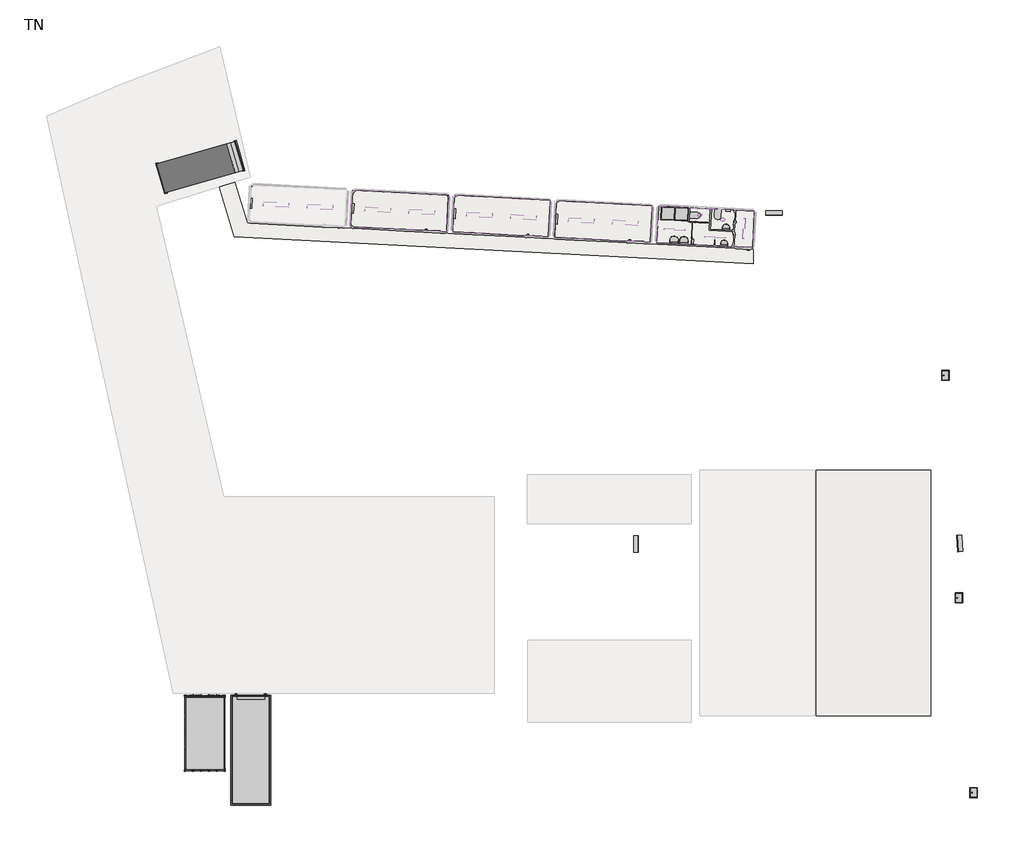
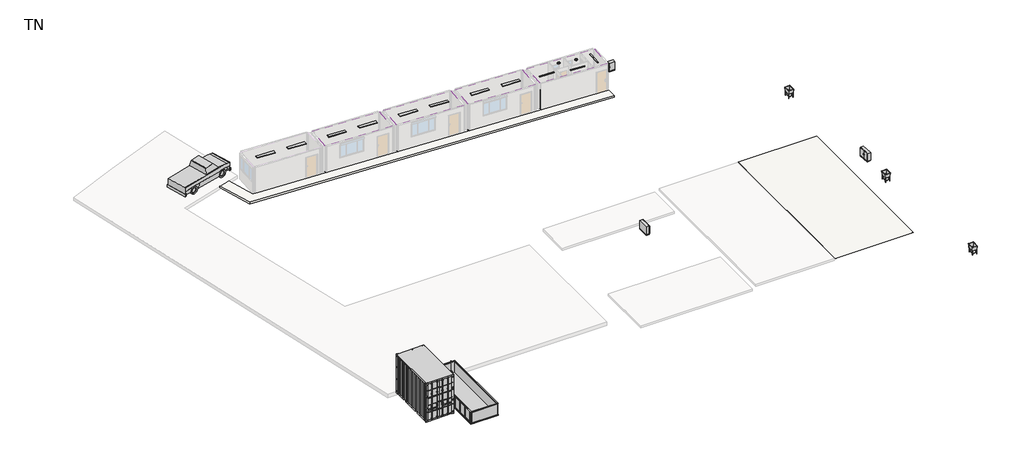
# One storey, part 2 of 2: 26 proxies, 13 light fixtures, 11 flow terminals, 6 slabs, 4 coverings, 1 geographic element.
"""IFC4 building model written with IfcOpenShell, lengths in millimetres."""

from ifc_helpers import new_model, si_unit, frame, origin, place, context, project, spatial, polyline, outline, extrude, faceted_brep, transform, mapped, element, save
from components import generic_models_80955716, proxy_1000_x_300_x_800_80c2998d, proxy_276mm_b661f6a0, proxy_276mm_ab83e847, proxy_600mm_4d415156, as_specified_in_01_52_13_0041e000, as_specified_in_01_52_13_7078bd20, m_outlet_single_single_59dc3149, m_outlet_single_single_3d2dbdc4, m_outlet_single_single_eedd577d, m_outlet_single_single_36af28d8, m_switch_single_single_bdcef15d, m_switch_single_single_5a78d6b5, pick_up_truck_a8637c89, flow_terminal_a5e4b3cb, flow_terminal_0f2f1a41, flow_terminal_440mm_dca6e4f9, flow_terminal_440mm_79f1e1fa, flow_terminal_550_995b3c18, evier_610_mmx455_mm_c8a5c5c3, geographic_element_20_yard_d3ad5d77, light_fixture_1255mm_x_70mm_1_x_36w_a4a57317, light_fixture_1550mm_x_265mm_2_x_58w_f319c43d, r122_1_x_36w_7453fb00

model = new_model("IFC4")

# Units and contexts
model_context = context("Model", 3, world=origin())
ifc_project = project(units=[si_unit("LENGTHUNIT", "METRE", prefix="MILLI")], contexts=[model_context])

# Site, building, storey
site = spatial("IfcSite", under=ifc_project)
building = spatial("IfcBuilding", under=site)
storey = spatial("IfcBuildingStorey", under=building, Name="TN", Elevation=0.0)

# Proxies
placement = place(None, origin())
generic_models_shape = generic_models_80955716(model_context)
element("IfcBuildingElementProxy", 1, Name="Partition_Zeppelin-Rental-GmbH : Partition_Zeppelin-Rental-GmbH", ObjectType="Partition_Zeppelin-Rental-GmbH : Partition_Zeppelin-Rental-GmbH", at=placement, inside=storey, context=model_context, shape_type="MappedRepresentation", body=[
    mapped(generic_models_shape, transform((-44607.4277084, 55996.3653864, 0.0), x_axis=(0.9986295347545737, -0.0523359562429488, 0.0), y_axis=(0.0523359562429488, 0.9986295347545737, 0.0), z_axis=(0.0, 0.0, 1.0))),
])
element("IfcBuildingElementProxy", 2, Name="Partition_Zeppelin-Rental-GmbH : Partition_Zeppelin-Rental-GmbH", ObjectType="Partition_Zeppelin-Rental-GmbH : Partition_Zeppelin-Rental-GmbH", at=placement, inside=storey, context=model_context, shape_type="MappedRepresentation", body=[
    mapped(generic_models_shape, transform((-44827.7120111, 55041.3353406, 0.0), x_axis=(0.9986295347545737, -0.0523359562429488, 0.0), y_axis=(0.0523359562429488, 0.9986295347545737, 0.0), z_axis=(0.0, 0.0, 1.0))),
])
proxy_1000_x_300_x_800_shape = proxy_1000_x_300_x_800_80c2998d(model_context)
element("IfcBuildingElementProxy", 3, Name="Armoire électrique : 1000 x 300 x 800", ObjectType="Armoire électrique : 1000 x 300 x 800", at=placement, inside=storey, context=model_context, shape_type="MappedRepresentation", body=[
    mapped(proxy_1000_x_300_x_800_shape, transform((-48371.6285023, 36338.5275457, 0.0), x_axis=(0.0, 1.0000000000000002, 0.0), y_axis=(-1.0000000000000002, 0.0, 0.0), z_axis=(0.0, 0.0, 1.0))),
])
element("IfcBuildingElementProxy", 4, Name="Armoire électrique : 1000 x 300 x 800", ObjectType="Armoire électrique : 1000 x 300 x 800", at=placement, inside=storey, context=model_context, shape_type="MappedRepresentation", body=[
    mapped(proxy_1000_x_300_x_800_shape, transform((-28308.8826223, 36392.8161314, 0.0), x_axis=(0.06975647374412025, -0.9975640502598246, 0.0), y_axis=(0.9975640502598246, 0.06975647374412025, 0.0), z_axis=(0.0, 0.0, 1.0))),
])
element("IfcBuildingElementProxy", 5, Name="Armoire électrique : 1000 x 300 x 800", ObjectType="Armoire électrique : 1000 x 300 x 800", at=placement, inside=storey, context=model_context, shape_type="MappedRepresentation", body=[
    mapped(proxy_1000_x_300_x_800_shape, transform((-39794.1193805, 56694.9002726, 0.0), x_axis=(1.0, 0.0, 0.0), y_axis=(0.0, 1.0, 0.0), z_axis=(0.0, 0.0, 1.0))),
])
proxy_276mm_shape = proxy_276mm_b661f6a0(model_context)
element("IfcBuildingElementProxy", 6, Name="HVAC_Heaters_Zeppelin-Rental-GmbH_276 : 276mm", ObjectType="HVAC_Heaters_Zeppelin-Rental-GmbH_276 : 276mm", at=placement, inside=storey, context=model_context, shape_type="MappedRepresentation", body=[
    mapped(proxy_276mm_shape, transform((-42712.5587076, 56806.806224, 0.0), x_axis=(0.9986295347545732, -0.05233595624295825, 0.0), y_axis=(0.05233595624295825, 0.9986295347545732, 0.0), z_axis=(0.0, 0.0, 1.0))),
])
proxy_276mm_2_shape = proxy_276mm_ab83e847(model_context)
element("IfcBuildingElementProxy", 7, Name="HVAC_Heaters_Zeppelin-Rental-GmbH_276 : 276mm", ObjectType="HVAC_Heaters_Zeppelin-Rental-GmbH_276 : 276mm", at=placement, inside=storey, context=model_context, shape_type="MappedRepresentation", body=[
    mapped(proxy_276mm_2_shape, transform((-44846.5520156, 54681.8466389, 0.0), x_axis=(0.0523359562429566, 0.9986295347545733, 0.0), y_axis=(-0.9986295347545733, 0.0523359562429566, 0.0), z_axis=(0.0, 0.0, 1.0))),
])
proxy_600mm_shape = proxy_600mm_4d415156(model_context)
element("IfcBuildingElementProxy", 8, Name="HVAC_Heaters_Zeppelin-Rental-GmbH_600 : 600mm", ObjectType="HVAC_Heaters_Zeppelin-Rental-GmbH_600 : 600mm", at=placement, inside=storey, context=model_context, shape_type="MappedRepresentation", body=[
    mapped(proxy_600mm_shape, transform((-71816.3745144, 57018.9262971, 0.0), x_axis=(0.052335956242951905, 0.9986295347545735, 0.0), y_axis=(-0.9986295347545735, 0.052335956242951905, 0.0), z_axis=(0.0, 0.0, 1.0))),
])
element("IfcBuildingElementProxy", 9, Name="HVAC_Heaters_Zeppelin-Rental-GmbH_600 : 600mm", ObjectType="HVAC_Heaters_Zeppelin-Rental-GmbH_600 : 600mm", at=placement, inside=storey, context=model_context, shape_type="MappedRepresentation", body=[
    mapped(proxy_600mm_shape, transform((-65616.3713916, 56702.3427236, 0.0), x_axis=(0.052335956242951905, 0.9986295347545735, 0.0), y_axis=(-0.9986295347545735, 0.052335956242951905, 0.0), z_axis=(0.0, 0.0, 1.0))),
])
element("IfcBuildingElementProxy", 10, Name="HVAC_Heaters_Zeppelin-Rental-GmbH_600 : 600mm", ObjectType="HVAC_Heaters_Zeppelin-Rental-GmbH_600 : 600mm", at=placement, inside=storey, context=model_context, shape_type="MappedRepresentation", body=[
    mapped(proxy_600mm_shape, transform((-59408.874735, 56388.0499982, 0.0), x_axis=(0.052335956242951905, 0.9986295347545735, 0.0), y_axis=(-0.9986295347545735, 0.052335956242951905, 0.0), z_axis=(0.0, 0.0, 1.0))),
])
element("IfcBuildingElementProxy", 11, Name="HVAC_Heaters_Zeppelin-Rental-GmbH_600 : 600mm", ObjectType="HVAC_Heaters_Zeppelin-Rental-GmbH_600 : 600mm", at=placement, inside=storey, context=model_context, shape_type="MappedRepresentation", body=[
    mapped(proxy_600mm_shape, transform((-53196.8613216, 56054.3834325, 0.0), x_axis=(0.052335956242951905, 0.9986295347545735, 0.0), y_axis=(-0.9986295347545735, 0.052335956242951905, 0.0), z_axis=(0.0, 0.0, 1.0))),
])
as_specified_in_01_52_13_shape = as_specified_in_01_52_13_0041e000(model_context)
as_specified_in_01_52_13_2_shape = as_specified_in_01_52_13_7078bd20(model_context)
element("IfcBuildingElementProxy", 12, Name="Conteneur de rangement : As specified in 01 52 13", ObjectType="Conteneur de rangement : As specified in 01 52 13", at=placement, inside=storey, context=model_context, shape_type="MappedRepresentation", body=[
    mapped(as_specified_in_01_52_13_shape, transform((-63648.3779274, 3775.4737504, 0.0), x_axis=(0.0, 1.0, 0.0), y_axis=(-1.0, 0.0, 0.0), z_axis=(0.0, 0.0, 1.0))),
    mapped(as_specified_in_01_52_13_2_shape, transform((-63648.3779274, 3775.4737504, 0.0), x_axis=(0.0, 1.0, 0.0), y_axis=(-1.0, 0.0, 0.0), z_axis=(0.0, 0.0, 1.0))),
])
m_outlet_single_single_shape = m_outlet_single_single_59dc3149(model_context)
element("IfcBuildingElementProxy", 13, Name="M_Outlet-Single : Single", ObjectType="M_Outlet-Single : Single", at=placement, inside=storey, context=model_context, shape_type="MappedRepresentation", body=[
    mapped(m_outlet_single_single_shape, transform((-71568.2135072, 58295.4520289, 0.0), x_axis=(-0.7431448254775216, -0.6691306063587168, 0.0), y_axis=(0.6691306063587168, -0.7431448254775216, 0.0), z_axis=(0.0, 0.0, 1.0))),
])
element("IfcBuildingElementProxy", 14, Name="M_Outlet-Single : Single", ObjectType="M_Outlet-Single : Single", at=placement, inside=storey, context=model_context, shape_type="MappedRepresentation", body=[
    mapped(m_outlet_single_single_shape, transform((-65338.7823356, 57952.1812313, 0.0), x_axis=(-0.7431448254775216, -0.6691306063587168, 0.0), y_axis=(0.6691306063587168, -0.7431448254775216, 0.0), z_axis=(0.0, 0.0, 1.0))),
])
element("IfcBuildingElementProxy", 15, Name="M_Outlet-Single : Single", ObjectType="M_Outlet-Single : Single", at=placement, inside=storey, context=model_context, shape_type="MappedRepresentation", body=[
    mapped(m_outlet_single_single_shape, transform((-59152.8421259, 57674.8636593, 0.0), x_axis=(-0.7431448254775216, -0.6691306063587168, 0.0), y_axis=(0.6691306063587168, -0.7431448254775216, 0.0), z_axis=(0.0, 0.0, 1.0))),
])
element("IfcBuildingElementProxy", 16, Name="M_Outlet-Single : Single", ObjectType="M_Outlet-Single : Single", at=placement, inside=storey, context=model_context, shape_type="MappedRepresentation", body=[
    mapped(m_outlet_single_single_shape, transform((-52938.403936, 57342.2973418, 0.0), x_axis=(-0.7431448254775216, -0.6691306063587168, 0.0), y_axis=(0.6691306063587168, -0.7431448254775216, 0.0), z_axis=(0.0, 0.0, 1.0))),
])
m_outlet_single_single_2_shape = m_outlet_single_single_3d2dbdc4(model_context)
element("IfcBuildingElementProxy", 17, Name="M_Outlet-Single : Single", ObjectType="M_Outlet-Single : Single", at=placement, inside=storey, context=model_context, shape_type="MappedRepresentation", body=[
    mapped(m_outlet_single_single_2_shape, transform((-41059.512476, 54421.0227732, 2.5), x_axis=(0.05233595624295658, 0.9986295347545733, 0.0), y_axis=(-0.9986295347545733, 0.05233595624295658, 0.0), z_axis=(0.0, 0.0, 1.0))),
])
element("IfcBuildingElementProxy", 18, Name="M_Outlet-Single : Single", ObjectType="M_Outlet-Single : Single", at=placement, inside=storey, context=model_context, shape_type="MappedRepresentation", body=[
    mapped(m_outlet_single_single_2_shape, transform((-46979.1650721, 55232.3212574, 2.5), x_axis=(-0.05233595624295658, -0.9986295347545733, 0.0), y_axis=(0.9986295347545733, -0.05233595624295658, 0.0), z_axis=(0.0, 0.0, 1.0))),
])
element("IfcBuildingElementProxy", 19, Name="M_Outlet-Single : Single", ObjectType="M_Outlet-Single : Single", at=placement, inside=storey, context=model_context, shape_type="MappedRepresentation", body=[
    mapped(m_outlet_single_single_2_shape, transform((-46435.1267881, 54664.6946948, 2.5), x_axis=(0.9986295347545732, -0.05233595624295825, 0.0), y_axis=(0.05233595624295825, 0.9986295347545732, 0.0), z_axis=(0.0, 0.0, 1.0))),
])
m_outlet_single_single_3_shape = m_outlet_single_single_eedd577d(model_context)
element("IfcBuildingElementProxy", 20, Name="M_Outlet-Single : Single", ObjectType="M_Outlet-Single : Single", at=placement, inside=storey, context=model_context, shape_type="MappedRepresentation", body=[
    mapped(m_outlet_single_single_3_shape, transform((-44821.1700166, 55166.1640324, 2.5), x_axis=(-0.0523359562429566, -0.9986295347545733, 0.0), y_axis=(0.9986295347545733, -0.0523359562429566, 0.0), z_axis=(0.0, 0.0, 1.0))),
])
m_outlet_single_single_4_shape = m_outlet_single_single_36af28d8(model_context)
element("IfcBuildingElementProxy", 21, Name="M_Outlet-Single : Single", ObjectType="M_Outlet-Single : Single", at=placement, inside=storey, context=model_context, shape_type="MappedRepresentation", body=[
    mapped(m_outlet_single_single_4_shape, transform((-42196.546548, 56551.9510887, 2.5), x_axis=(0.05233595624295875, 0.9986295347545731, 0.0), y_axis=(-0.9986295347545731, 0.05233595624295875, 0.0), z_axis=(0.0, 0.0, 1.0))),
])
m_switch_single_single_shape = m_switch_single_single_bdcef15d(model_context)
element("IfcBuildingElementProxy", 22, Name="M_Switch-Single : Single", ObjectType="M_Switch-Single : Single", at=placement, inside=storey, context=model_context, shape_type="MappedRepresentation", body=[
    mapped(m_switch_single_single_shape, transform((-43691.7565594, 55918.3359246, -92.5), x_axis=(0.05233595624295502, 0.9986295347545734, 0.0), y_axis=(-0.9986295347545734, 0.05233595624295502, 0.0), z_axis=(0.0, 0.0, 1.0))),
])
element("IfcBuildingElementProxy", 23, Name="M_Switch-Single : Single", ObjectType="M_Switch-Single : Single", at=placement, inside=storey, context=model_context, shape_type="MappedRepresentation", body=[
    mapped(m_switch_single_single_shape, transform((-42240.9405229, 55704.8635858, -92.5), x_axis=(0.05233595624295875, 0.9986295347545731, 0.0), y_axis=(-0.9986295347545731, 0.05233595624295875, 0.0), z_axis=(0.0, 0.0, 1.0))),
])
element("IfcBuildingElementProxy", 24, Name="M_Switch-Single : Single", ObjectType="M_Switch-Single : Single", at=placement, inside=storey, context=model_context, shape_type="MappedRepresentation", body=[
    mapped(m_switch_single_single_shape, transform((-42264.8188029, 55249.2388606, -92.5), x_axis=(0.05233595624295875, 0.9986295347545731, 0.0), y_axis=(-0.9986295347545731, 0.05233595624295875, 0.0), z_axis=(0.0, 0.0, 1.0))),
])
m_switch_single_single_2_shape = m_switch_single_single_5a78d6b5(model_context)
element("IfcBuildingElementProxy", 25, Name="M_Switch-Single : Single", ObjectType="M_Switch-Single : Single", at=placement, inside=storey, context=model_context, shape_type="MappedRepresentation", body=[
    mapped(m_switch_single_single_2_shape, transform((-41055.848959, 54490.9268406, -92.5), x_axis=(0.05233595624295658, 0.9986295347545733, 0.0), y_axis=(-0.9986295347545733, 0.05233595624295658, 0.0), z_axis=(0.0, 0.0, 1.0))),
])
pick_up_truck_shape = pick_up_truck_a8637c89(model_context)
element("IfcBuildingElementProxy", 26, Name="Camionette : Pick-Up Truck", ObjectType="Camionette : Pick-Up Truck", at=placement, inside=storey, context=model_context, shape_type="MappedRepresentation", body=[
    mapped(pick_up_truck_shape, transform((-74296.5505191, 59459.2482903, 0.0), x_axis=(-0.27563735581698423, 0.961261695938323, 0.0), y_axis=(-0.961261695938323, -0.27563735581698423, 0.0), z_axis=(0.0, 0.0, 1.0))),
])

# Coverings
element("IfcCovering", 27, ObjectType="Constuction_Ceiling_Zeppelin-Rental-GmbH", at=placement, inside=storey, context=model_context, shape_type="SweptSolid", body=[
    extrude(outline(polyline([(-59657.5632918, 57631.7565329), (-59774.2724742, 55404.8126704), (-65616.2552525, 55710.9780144), (-65499.5460701, 57937.9218769), (-59657.5632918, 57631.7565329)])), frame((0.0, 0.0, 2459.0), z_axis=(0.0, 0.0, 1.0), x_axis=(1.0, 0.0, 0.0)), (0.0, 0.0, 1.0), 220.0),
])
element("IfcCovering", 28, ObjectType="Constuction_Ceiling_Zeppelin-Rental-GmbH", at=placement, inside=storey, context=model_context, shape_type="SweptSolid", body=[
    extrude(outline(polyline([(-53450.0666351, 57317.4638075), (-53566.7758175, 55090.519945), (-59408.7585958, 55396.6852891), (-59292.0494134, 57623.6291516), (-53450.0666351, 57317.4638075)])), frame((0.0, 0.0, 2459.0), z_axis=(0.0, 0.0, 1.0), x_axis=(1.0, 0.0, 0.0)), (0.0, 0.0, 1.0), 220.0),
])
element("IfcCovering", 29, ObjectType="Constuction_Ceiling_Zeppelin-Rental-GmbH", at=placement, inside=storey, context=model_context, shape_type="SweptSolid", body=[
    extrude(outline(polyline([(-47238.0532218, 56983.7972419), (-47354.7624042, 54756.8533794), (-53196.7451825, 55063.0187234), (-53080.0360001, 57289.9625859), (-47238.0532218, 56983.7972419)])), frame((0.0, 0.0, 2459.0), z_axis=(0.0, 0.0, 1.0), x_axis=(1.0, 0.0, 0.0)), (0.0, 0.0, 1.0), 220.0),
])
element("IfcCovering", 30, ObjectType="Constuction_Ceiling_Zeppelin-Rental-GmbH", at=placement, inside=storey, context=model_context, shape_type="SweptSolid", body=[
    extrude(outline(polyline([(-40993.9993227, 56664.6689811), (-41110.7085051, 54437.7251186), (-46952.6912834, 54743.8904626), (-46835.982101, 56970.8343251), (-40993.9993227, 56664.6689811)])), frame((0.0, 0.0, 2459.0), z_axis=(0.0, 0.0, 1.0), x_axis=(1.0, 0.0, 0.0)), (0.0, 0.0, 1.0), 220.0),
])

# Flow terminals
flow_terminal_shape = flow_terminal_a5e4b3cb(model_context)
element("IfcFlowTerminal", 31, ObjectType="Sanitary_Shower-Trays_Zeppelin-Rental-GmbH : Sanitary_Shower-Trays_Zeppelin-Rental-GmbH", at=placement, inside=storey, context=model_context, shape_type="MappedRepresentation", body=[
    mapped(flow_terminal_shape, transform((-46271.5059794, 56525.6819863, 0.0), x_axis=(0.052335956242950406, 0.9986295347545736, 0.0), y_axis=(-0.9986295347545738, 0.05233595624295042, 0.0), z_axis=(0.0, 0.0, 1.0000000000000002))),
])
element("IfcFlowTerminal", 32, ObjectType="Sanitary_Shower-Trays_Zeppelin-Rental-GmbH : Sanitary_Shower-Trays_Zeppelin-Rental-GmbH", at=placement, inside=storey, context=model_context, shape_type="MappedRepresentation", body=[
    mapped(flow_terminal_shape, transform((-45442.6434656, 56482.2431426, 0.0), x_axis=(0.052335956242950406, 0.9986295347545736, 0.0), y_axis=(-0.9986295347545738, 0.05233595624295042, 0.0), z_axis=(0.0, 0.0, 1.0000000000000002))),
])
flow_terminal_2_shape = flow_terminal_0f2f1a41(model_context)
element("IfcFlowTerminal", 33, ObjectType="Sanitary_Toilets_Zeppelin-Rental-GmbH : Sanitary_Toilets_Zeppelin-Rental-GmbH", at=placement, inside=storey, context=model_context, shape_type="MappedRepresentation", body=[
    mapped(flow_terminal_2_shape, transform((-44952.1598713, 56421.3176016, 400.0), x_axis=(0.0523359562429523, 0.9986295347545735, 0.0), y_axis=(0.0, 0.0, 1.0), z_axis=(0.9986295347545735, -0.0523359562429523, 0.0))),
])
element("IfcFlowTerminal", 34, ObjectType="Sanitary_Toilets_Zeppelin-Rental-GmbH : Sanitary_Toilets_Zeppelin-Rental-GmbH", at=placement, inside=storey, context=model_context, shape_type="MappedRepresentation", body=[
    mapped(flow_terminal_2_shape, transform((-43211.6897108, 56780.8932095, 400.0), x_axis=(0.9986295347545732, -0.05233595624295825, 0.0), y_axis=(0.0, 0.0, 1.0), z_axis=(-0.05233595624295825, -0.9986295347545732, 0.0))),
])
flow_terminal_440mm_shape = flow_terminal_440mm_dca6e4f9(model_context)
element("IfcFlowTerminal", 35, ObjectType="Sanitary_Sinks_Zeppelin-Rental-GmbH_Round_440 : 440mm", at=placement, inside=storey, context=model_context, shape_type="MappedRepresentation", body=[
    mapped(flow_terminal_440mm_shape, transform((-42611.6233501, 55462.6817242, 0.0), x_axis=(-0.9986295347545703, 0.05233595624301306, 0.0), y_axis=(-0.05233595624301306, -0.9986295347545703, 0.0), z_axis=(0.0, 0.0, 1.0))),
])
flow_terminal_440mm_2_shape = flow_terminal_440mm_79f1e1fa(model_context)
element("IfcFlowTerminal", 36, ObjectType="Sanitary_Sinks_Zeppelin-Rental-GmbH_Round_440 : 440mm", at=placement, inside=storey, context=model_context, shape_type="MappedRepresentation", body=[
    mapped(flow_terminal_440mm_2_shape, transform((-42721.2235033, 54470.0572712, 0.0), x_axis=(-0.9986295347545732, 0.05233595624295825, 0.0), y_axis=(-0.05233595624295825, -0.9986295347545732, 0.0), z_axis=(0.0, 0.0, 1.0))),
])
flow_terminal_550_shape = flow_terminal_550_995b3c18(model_context)
element("IfcFlowTerminal", 37, ObjectType="Sanitary_Sinks_Zeppelin-Rental-GmbH_Round_550 : 550", at=placement, inside=storey, context=model_context, shape_type="MappedRepresentation", body=[
    mapped(flow_terminal_550_shape, transform((-45186.3405323, 54599.2485803, 0.0), x_axis=(-0.9986295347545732, 0.05233595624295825, 0.0), y_axis=(-0.05233595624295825, -0.9986295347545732, 0.0), z_axis=(0.0, 0.0, 1.0))),
])
element("IfcFlowTerminal", 38, ObjectType="Sanitary_Sinks_Zeppelin-Rental-GmbH_Round_550 : 550", at=placement, inside=storey, context=model_context, shape_type="MappedRepresentation", body=[
    mapped(flow_terminal_550_shape, transform((-45787.0161975, 54630.728658, 0.0), x_axis=(-0.9986295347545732, 0.05233595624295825, 0.0), y_axis=(-0.05233595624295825, -0.9986295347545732, 0.0), z_axis=(0.0, 0.0, 1.0))),
])
evier_610_mmx455_mm_shape = evier_610_mmx455_mm_c8a5c5c3(model_context)
element("IfcFlowTerminal", 39, ObjectType="Evier : 610 mmx455 mm", at=placement, inside=storey, context=model_context, shape_type="MappedRepresentation", body=[
    mapped(evier_610_mmx455_mm_shape, transform((-29576.0624355, 46636.452454, 0.0), x_axis=(1.0, 0.0, 0.0), y_axis=(0.0, 1.0, 0.0), z_axis=(0.0, 0.0, 1.0))),
])
element("IfcFlowTerminal", 40, ObjectType="Evier : 610 mmx455 mm", at=placement, inside=storey, context=model_context, shape_type="MappedRepresentation", body=[
    mapped(evier_610_mmx455_mm_shape, transform((-28752.5665918, 33061.1257329, 0.0), x_axis=(1.0, 0.0, 0.0), y_axis=(0.0, 1.0, 0.0), z_axis=(0.0, 0.0, 1.0))),
])
element("IfcFlowTerminal", 41, ObjectType="Evier : 610 mmx455 mm", at=placement, inside=storey, context=model_context, shape_type="MappedRepresentation", body=[
    mapped(evier_610_mmx455_mm_shape, transform((-27840.0814367, 21171.8096362, 0.0), x_axis=(1.0, 0.0, 0.0), y_axis=(0.0, 1.0, 0.0), z_axis=(0.0, 0.0, 1.0))),
])

# Geographic element
geographic_element_20_yard_shape = geographic_element_20_yard_d3ad5d77(model_context)
element("IfcGeographicElement", 42, ObjectType="Benne à ordures : 20 Yard", at=placement, inside=storey, context=model_context, shape_type="MappedRepresentation", body=[
    mapped(geographic_element_20_yard_shape, transform((-71722.5559885, 23773.3495481, 0.0), x_axis=(0.0, -1.0, 0.0), y_axis=(1.0, 0.0, 0.0), z_axis=(0.0, 0.0, 1.0))),
])

# Light fixtures
light_fixture_1255mm_x_70mm_1_x_36w_shape = light_fixture_1255mm_x_70mm_1_x_36w_a4a57317(model_context)
element("IfcLightFixture", 43, ObjectType="Lighting_Ceiling-Mounted_Zeppelin-Rental-GmbH : 1255mm x 70mm (1 x 36W)", at=placement, inside=storey, context=model_context, shape_type="MappedRepresentation", body=[
    mapped(light_fixture_1255mm_x_70mm_1_x_36w_shape, transform((-45879.8992419, 55536.2146405, 2459.0), x_axis=(-0.9986295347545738, 0.05233595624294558, 0.0), y_axis=(0.0523359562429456, 0.998629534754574, 0.0), z_axis=(0.0, 0.0, -1.0000000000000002))),
])
element("IfcLightFixture", 44, ObjectType="Lighting_Ceiling-Mounted_Zeppelin-Rental-GmbH : 1255mm x 70mm (1 x 36W)", at=placement, inside=storey, context=model_context, shape_type="MappedRepresentation", body=[
    mapped(light_fixture_1255mm_x_70mm_1_x_36w_shape, transform((-43410.2846284, 55067.0299933, 2459.0), x_axis=(-0.9986295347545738, 0.05233595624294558, 0.0), y_axis=(0.0523359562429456, 0.998629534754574, 0.0), z_axis=(0.0, 0.0, -1.0000000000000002))),
])
element("IfcLightFixture", 45, ObjectType="Lighting_Ceiling-Mounted_Zeppelin-Rental-GmbH : 1255mm x 70mm (1 x 36W)", at=placement, inside=storey, context=model_context, shape_type="MappedRepresentation", body=[
    mapped(light_fixture_1255mm_x_70mm_1_x_36w_shape, transform((-41628.9075678, 55593.9302255, 2459.0), x_axis=(-0.05233595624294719, -0.9986295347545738, 0.0), y_axis=(-0.998629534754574, 0.05233595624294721, 0.0), z_axis=(0.0, 0.0, -1.0000000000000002))),
])
light_fixture_1550mm_x_265mm_2_x_58w_shape = light_fixture_1550mm_x_265mm_2_x_58w_f319c43d(model_context)
element("IfcLightFixture", 46, ObjectType="Lighting_Ceiling-Mounted_Zeppelin-Rental-GmbH : 1550mm x 265mm (2 x 58W)", at=placement, inside=storey, context=model_context, shape_type="MappedRepresentation", body=[
    mapped(light_fixture_1550mm_x_265mm_2_x_58w_shape, transform((-70180.0691171, 57058.3427082, 2459.0), x_axis=(-0.9986295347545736, 0.05233595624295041, 0.0), y_axis=(0.05233595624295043, 0.9986295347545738, 0.0), z_axis=(0.0, 0.0, -1.0000000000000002))),
])
element("IfcLightFixture", 47, ObjectType="Lighting_Ceiling-Mounted_Zeppelin-Rental-GmbH : 1550mm x 265mm (2 x 58W)", at=placement, inside=storey, context=model_context, shape_type="MappedRepresentation", body=[
    mapped(light_fixture_1550mm_x_265mm_2_x_58w_shape, transform((-67493.7556687, 56917.558986, 2459.0), x_axis=(-0.9986295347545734, 0.05233595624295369, 0.0), y_axis=(0.0523359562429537, 0.9986295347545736, 0.0), z_axis=(0.0, 0.0, -1.0000000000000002))),
])
element("IfcLightFixture", 48, ObjectType="Lighting_Ceiling-Mounted_Zeppelin-Rental-GmbH : 1550mm x 265mm (2 x 58W)", at=placement, inside=storey, context=model_context, shape_type="MappedRepresentation", body=[
    mapped(light_fixture_1550mm_x_265mm_2_x_58w_shape, transform((-63980.0659944, 56741.7591347, 2459.0), x_axis=(-0.9986295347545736, 0.05233595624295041, 0.0), y_axis=(0.05233595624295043, 0.9986295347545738, 0.0), z_axis=(0.0, 0.0, -1.0000000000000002))),
])
element("IfcLightFixture", 49, ObjectType="Lighting_Ceiling-Mounted_Zeppelin-Rental-GmbH : 1550mm x 265mm (2 x 58W)", at=placement, inside=storey, context=model_context, shape_type="MappedRepresentation", body=[
    mapped(light_fixture_1550mm_x_265mm_2_x_58w_shape, transform((-61293.7525459, 56600.9754124, 2459.0), x_axis=(-0.9986295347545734, 0.0523359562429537, 0.0), y_axis=(0.052335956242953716, 0.9986295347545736, 0.0), z_axis=(0.0, 0.0, -1.0000000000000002))),
])
element("IfcLightFixture", 50, ObjectType="Lighting_Ceiling-Mounted_Zeppelin-Rental-GmbH : 1550mm x 265mm (2 x 58W)", at=placement, inside=storey, context=model_context, shape_type="MappedRepresentation", body=[
    mapped(light_fixture_1550mm_x_265mm_2_x_58w_shape, transform((-57772.5693377, 56427.4664093, 2459.0), x_axis=(-0.9986295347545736, 0.05233595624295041, 0.0), y_axis=(0.05233595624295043, 0.9986295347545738, 0.0), z_axis=(0.0, 0.0, -1.0000000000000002))),
])
element("IfcLightFixture", 51, ObjectType="Lighting_Ceiling-Mounted_Zeppelin-Rental-GmbH : 1550mm x 265mm (2 x 58W)", at=placement, inside=storey, context=model_context, shape_type="MappedRepresentation", body=[
    mapped(light_fixture_1550mm_x_265mm_2_x_58w_shape, transform((-55086.2558892, 56286.682687, 2459.0), x_axis=(-0.9986295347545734, 0.052335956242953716, 0.0), y_axis=(0.05233595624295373, 0.9986295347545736, 0.0), z_axis=(0.0, 0.0, -1.0000000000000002))),
])
element("IfcLightFixture", 52, ObjectType="Lighting_Ceiling-Mounted_Zeppelin-Rental-GmbH : 1550mm x 265mm (2 x 58W)", at=placement, inside=storey, context=model_context, shape_type="MappedRepresentation", body=[
    mapped(light_fixture_1550mm_x_265mm_2_x_58w_shape, transform((-51560.5559244, 56093.7998437, 2459.0), x_axis=(-0.9986295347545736, 0.05233595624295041, 0.0), y_axis=(0.05233595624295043, 0.9986295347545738, 0.0), z_axis=(0.0, 0.0, -1.0000000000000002))),
])
element("IfcLightFixture", 53, ObjectType="Lighting_Ceiling-Mounted_Zeppelin-Rental-GmbH : 1550mm x 265mm (2 x 58W)", at=placement, inside=storey, context=model_context, shape_type="MappedRepresentation", body=[
    mapped(light_fixture_1550mm_x_265mm_2_x_58w_shape, transform((-48874.2424759, 55953.0161214, 2459.0), x_axis=(-0.9986295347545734, 0.05233595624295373, 0.0), y_axis=(0.05233595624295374, 0.9986295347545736, 0.0), z_axis=(0.0, 0.0, -1.0000000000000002))),
])
r122_1_x_36w_shape = r122_1_x_36w_7453fb00(model_context)
element("IfcLightFixture", 54, ObjectType="Lighting_Ceiling-Mounted_Zeppelin-Rental-GmbH_Toilet : R122 (1 x 36W)", at=placement, inside=storey, context=model_context, shape_type="MappedRepresentation", body=[
    mapped(r122_1_x_36w_shape, transform((-44326.6990053, 56413.7452482, 2459.0), x_axis=(0.9986295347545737, -0.0523359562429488, 0.0), y_axis=(-0.05233595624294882, -0.9986295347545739, 0.0), z_axis=(0.0, 0.0, -1.0000000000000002))),
])
element("IfcLightFixture", 55, ObjectType="Lighting_Ceiling-Mounted_Zeppelin-Rental-GmbH_Toilet : R122 (1 x 36W)", at=placement, inside=storey, context=model_context, shape_type="MappedRepresentation", body=[
    mapped(r122_1_x_36w_shape, transform((-42920.6102015, 56139.7807873, 2459.0), x_axis=(0.9986295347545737, -0.0523359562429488, 0.0), y_axis=(-0.05233595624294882, -0.9986295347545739, 0.0), z_axis=(0.0, 0.0, -1.0000000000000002))),
])

# Slabs
element("IfcSlab", 56, ObjectType="Constuction_Floor_Zeppelin-Rental-GmbH", at=placement, inside=storey, context=model_context, shape_type="Brep", body=[
    faceted_brep([(-59657.5632885, 57631.7565951, -21.0), (-59661.5408212, 57555.8607505, -21.0), (-59770.2949448, 55480.7084529, -21.0), (-59774.2724742, 55404.8126704, -21.0), (-59850.1683413, 55408.7902043, -21.0), (-65540.3594304, 55707.000483, -21.0), (-65616.2552525, 55710.9780144, -21.0), (-65612.2777198, 55786.8738591, -21.0), (-65503.5235995, 57862.0260945, -21.0), (-65499.5460668, 57937.9219391, -21.0), (-65423.6502447, 57933.9444076, -21.0), (-59733.4591557, 57635.734129, -21.0), (-59774.2724742, 55404.8126704, 0.0), (-59657.5632885, 57631.7565951, 0.0), (-65499.5460668, 57937.9219391, 0.0), (-65616.2552525, 55710.9780144, 0.0), (-61148.3867365, 55476.8269474, 0.0), (-60149.7572018, 55424.4909912, 0.0)], [[[0, 1, 2, 3, 4, 5, 6, 7, 8, 9, 10, 11]], [[12, 13, 14, 15, 16, 17]], [[13, 0, 11, 10, 9, 14]], [[0, 13, 12, 3, 2, 1]], [[3, 12, 17, 16, 15, 6, 5, 4]], [[6, 15, 14, 9, 8, 7]]]),
])
element("IfcSlab", 57, ObjectType="Constuction_Floor_Zeppelin-Rental-GmbH", at=placement, inside=storey, context=model_context, shape_type="Brep", body=[
    faceted_brep([(-53450.0666318, 57317.4638697, -21.0), (-53454.0441645, 57241.5680251, -21.0), (-53562.7982881, 55166.4157275, -21.0), (-53566.7758175, 55090.519945, -21.0), (-53642.6716847, 55094.4974789, -21.0), (-59332.8627737, 55392.7077576, -21.0), (-59408.7585958, 55396.6852891, -21.0), (-59404.7810632, 55472.5811337, -21.0), (-59296.0269428, 57547.7333691, -21.0), (-59292.0494101, 57623.6292138, -21.0), (-59216.153588, 57619.6516823, -21.0), (-53525.962499, 57321.4414036, -21.0), (-53566.7758175, 55090.519945, 0.0), (-53450.0666318, 57317.4638697, 0.0), (-59292.0494101, 57623.6292138, 0.0), (-59408.7585958, 55396.6852891, 0.0), (-54940.8900799, 55162.534222, 0.0), (-53942.2605451, 55110.1982658, 0.0)], [[[0, 1, 2, 3, 4, 5, 6, 7, 8, 9, 10, 11]], [[12, 13, 14, 15, 16, 17]], [[13, 0, 11, 10, 9, 14]], [[0, 13, 12, 3, 2, 1]], [[3, 12, 17, 16, 15, 6, 5, 4]], [[6, 15, 14, 9, 8, 7]]]),
])
element("IfcSlab", 58, ObjectType="Constuction_Floor_Zeppelin-Rental-GmbH", at=placement, inside=storey, context=model_context, shape_type="Brep", body=[
    faceted_brep([(-47238.0532185, 56983.7973041, -21.0), (-47242.0307512, 56907.9014594, -21.0), (-47350.7848748, 54832.7491618, -21.0), (-47354.7624042, 54756.8533794, -21.0), (-47430.6582713, 54760.8309132, -21.0), (-53120.8493604, 55059.0411919, -21.0), (-53196.7451825, 55063.0187234, -21.0), (-53192.7676498, 55138.914568, -21.0), (-53084.0135295, 57214.0668034, -21.0), (-53080.0359968, 57289.9626481, -21.0), (-53004.1401747, 57285.9851166, -21.0), (-47313.9490857, 56987.7748379, -21.0), (-47354.7624042, 54756.8533794, 0.0), (-47238.0532185, 56983.7973041, 0.0), (-53080.0359968, 57289.9626481, 0.0), (-53196.7451825, 55063.0187234, 0.0), (-48728.8766665, 54828.8676563, 0.0), (-47730.2471318, 54776.5317001, 0.0)], [[[0, 1, 2, 3, 4, 5, 6, 7, 8, 9, 10, 11]], [[12, 13, 14, 15, 16, 17]], [[13, 0, 11, 10, 9, 14]], [[0, 13, 12, 3, 2, 1]], [[3, 12, 17, 16, 15, 6, 5, 4]], [[6, 15, 14, 9, 8, 7]]]),
])
element("IfcSlab", 59, ObjectType="Constuction_Floor_Zeppelin-Rental-GmbH", at=placement, inside=storey, context=model_context, shape_type="Brep", body=[
    faceted_brep([(-40993.9993194, 56664.6690433, -21.0), (-40997.9768521, 56588.7731987, -21.0), (-41106.7309757, 54513.620901, -21.0), (-41110.7085051, 54437.7251186, -21.0), (-41186.6043723, 54441.7026524, -21.0), (-46876.7954613, 54739.9129311, -21.0), (-46952.6912834, 54743.8904626, -21.0), (-46948.7137508, 54819.7863073, -21.0), (-46839.9596304, 56894.9385427, -21.0), (-46835.9820978, 56970.8343873, -21.0), (-46760.0862756, 56966.8568558, -21.0), (-41069.8951866, 56668.6465771, -21.0), (-41110.7085051, 54437.7251186, 0.0), (-40993.9993194, 56664.6690433, 0.0), (-46835.9820978, 56970.8343873, 0.0), (-46952.6912834, 54743.8904626, 0.0), (-42115.3298171, 54490.3750906, 0.0), (-41241.5289742, 54444.5811289, 0.0)], [[[0, 1, 2, 3, 4, 5, 6, 7, 8, 9, 10, 11]], [[12, 13, 14, 15, 16, 17]], [[13, 0, 11, 10, 9, 14]], [[0, 13, 12, 3, 2, 1]], [[3, 12, 17, 16, 15, 6, 5, 4]], [[6, 15, 14, 9, 8, 7]]]),
])
element("IfcSlab", 60, ObjectType="Sol atelier préfa", at=placement, inside=storey, context=model_context, shape_type="SweptSolid", body=[
    extrude(outline(polyline([(-30235.5974841, 40855.3840948), (-30235.5974841, 25855.3840948), (-37235.5974841, 25855.3840948), (-37235.5974841, 40855.3840948), (-30235.5974841, 40855.3840948)])), frame((0.0, 0.0, -12.0), z_axis=(0.0, 0.0, 1.0), x_axis=(1.0, 0.0, 0.0)), (0.0, 0.0, 1.0), 12.0),
])
element("IfcSlab", 61, ObjectType="Générique  150 mm", at=placement, inside=storey, context=model_context, shape_type="SweptSolid", body=[
    extrude(outline(polyline([(-71939.8506643, 55949.2692724), (-41059.1111055, 54330.8782895), (-41059.1111055, 53435.1006028), (-72724.243767, 55094.5998863), (-73653.985788, 58135.6490103), (-72697.681032, 58428.020715), (-71939.8506643, 55949.2692724)])), frame((0.0, 0.0, -150.0), z_axis=(0.0, 0.0, 1.0), x_axis=(1.0, 0.0, 0.0)), (0.0, 0.0, 1.0), 150.0),
])

save(model, "model.ifc")
